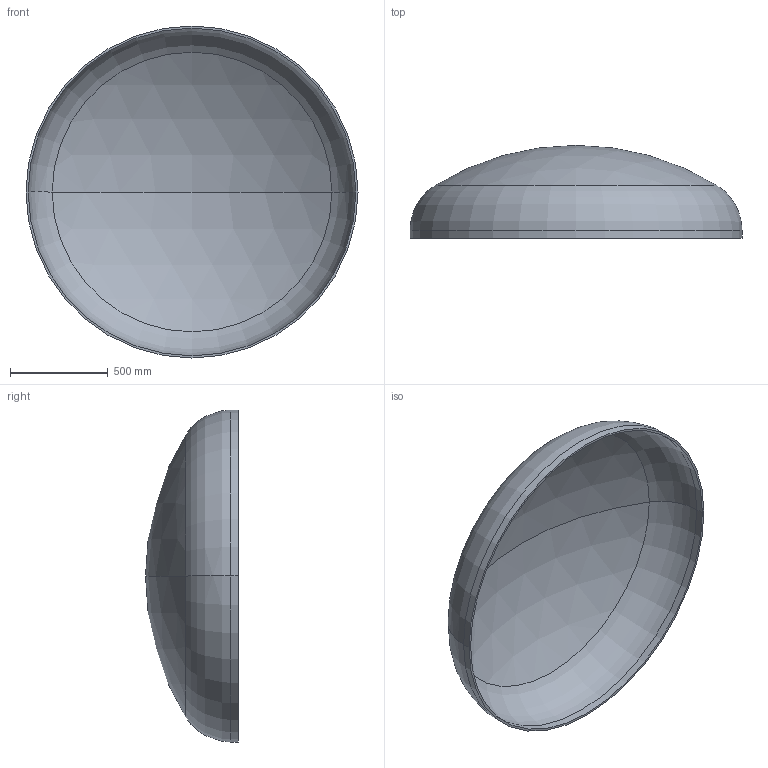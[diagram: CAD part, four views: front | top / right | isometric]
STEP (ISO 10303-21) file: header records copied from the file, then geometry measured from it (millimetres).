
FILE_DESCRIPTION (( 'STEP AP203' ), '1' );
FILE_NAME ('DIN 28013 Korbbogenform_-_Boden DIN 28013 - 1700 x 40 - I - s=11.step', '2016-07-01T11:37:01', ( '' ), ( '' ), 'SwSTEP 2.0', 'SolidWorks 2013', '' );
FILE_SCHEMA (( 'CONFIG_CONTROL_DESIGN' ));
Length unit declared in the file: millimetre
Products named in the file (1): DIN 28013 Korbbogenform_-_Boden DIN 28013 - 1700 x 40 - I - s=11
Bounding box: 1700 x 475.71 x 1700 mm (x, y, z)
Volume: 36574779.2 mm3; surface area: 6708578.4 mm2
Topology: 1 solids, 1 shells, 13 faces, 24 edges, 14 vertices
Faces by surface type: torus 4, cylinder 4, sphere 4, plane 1
Entity records: 407 total; most frequent: DIRECTION 72, CARTESIAN_POINT 52, ORIENTED_EDGE 48, AXIS2_PLACEMENT_3D 34, EDGE_CURVE 24, CIRCLE 20, VERTEX_POINT 14, EDGE_LOOP 14
